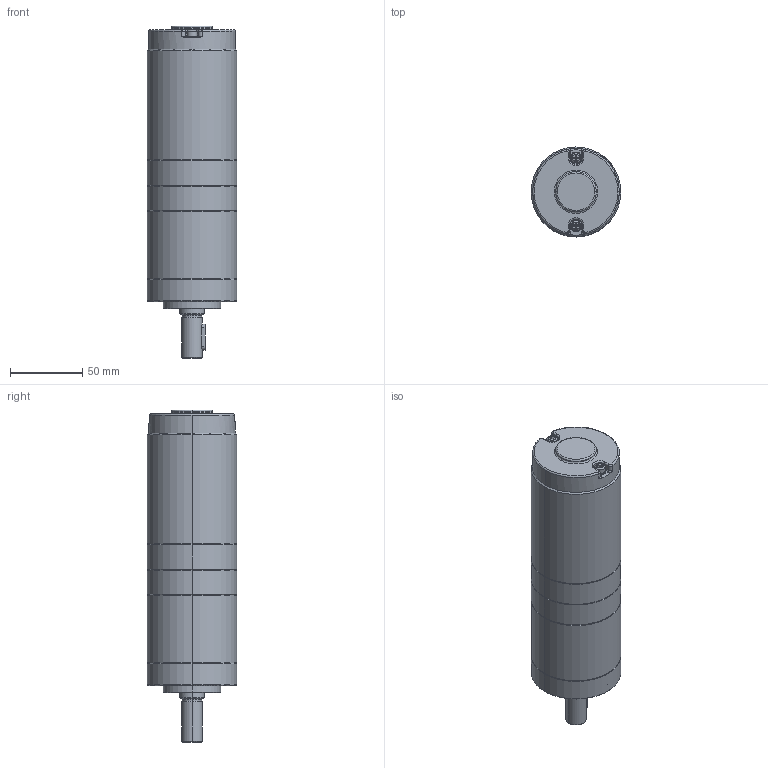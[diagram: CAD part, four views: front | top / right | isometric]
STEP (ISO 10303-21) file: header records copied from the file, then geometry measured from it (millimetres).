
FILE_DESCRIPTION (( 'STEP AP203' ), '1' );
FILE_NAME ('62ZPN有刷三级减速40W.STEP', '2021-07-17T08:17:43', ( '' ), ( '' ), 'SwSTEP 2.0', 'SolidWorks 2021', '' );
FILE_SCHEMA (( 'CONFIG_CONTROL_DESIGN' ));
Length unit declared in the file: millimetre
Products named in the file (1): 62ZPN有刷三级减速40W
Bounding box: 62 x 62 x 229.8 mm (x, y, z)
Volume: 576286.4 mm3; surface area: 47856.7 mm2
Topology: 1 solids, 1 shells, 277 faces, 645 edges, 385 vertices
Faces by surface type: plane 98, cylinder 97, cone 48, torus 27, bspline 7
Entity records: 8342 total; most frequent: CARTESIAN_POINT 1897, DIRECTION 1416, ORIENTED_EDGE 1266, EDGE_CURVE 633, AXIS2_PLACEMENT_3D 540, VERTEX_POINT 385, VECTOR 336, LINE 336
